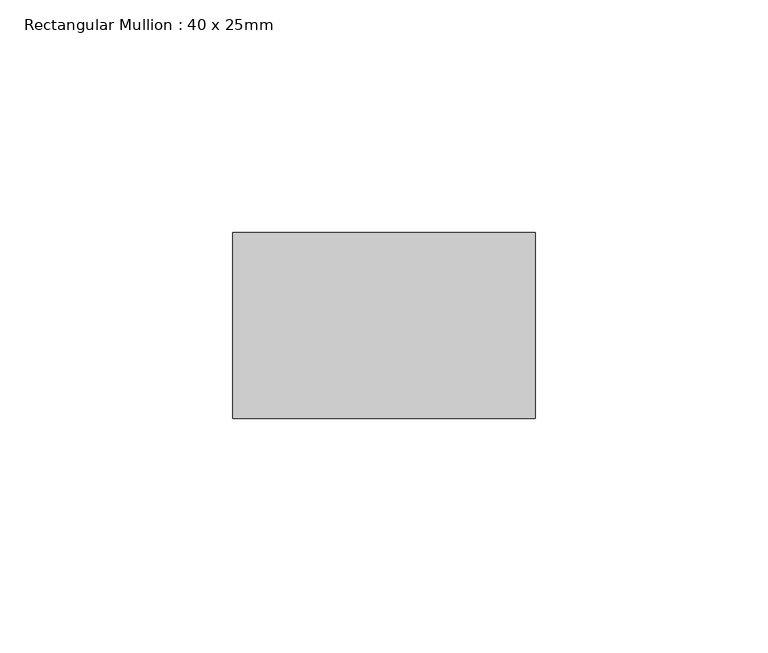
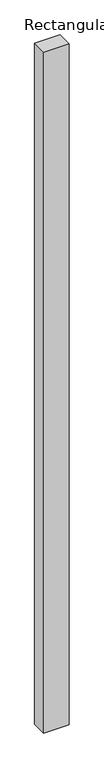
"""IFC4 building model written with IfcOpenShell, lengths in millimetres: member geometry, Rectangular Mullion : 40 x 25mm."""

from ifc_helpers import new_model, si_unit, frame, origin, place, context, project, spatial, polyline, outline, extrude, source, transform, mapped, element, save


def rectangular_mullion_40_x_25mm_8e8d680b(model_context):
    return source(origin(), model_context, "Body", "SweptSolid", [
        extrude(outline(polyline([(0.0, -20.0), (0.0, -60.0), (-65.0, -60.0), (-65.0, -20.0), (0.0, -20.0)])), frame((0.0, 0.0, -1848.8148236), z_axis=(0.0, 0.0, 1.0), x_axis=(1.0, 0.0, 0.0)), (0.0, 0.0, 1.0), 1848.8148236),
    ])


if __name__ == "__main__":
    model = new_model("IFC4")
    model_context = context("Model", 3, world=origin())
    ifc_project = project(units=[si_unit("LENGTHUNIT", "METRE", prefix="MILLI")], contexts=[model_context])
    site = spatial("IfcSite", under=ifc_project)
    building = spatial("IfcBuilding", under=site)
    placement = place(None, origin())
    rectangular_mullion_40_x_25mm_shape = rectangular_mullion_40_x_25mm_8e8d680b(model_context)
    element("IfcMember", 1, ObjectType="Rectangular Mullion : 40 x 25mm", at=placement, inside=building, context=model_context, shape_type="MappedRepresentation", body=[
        mapped(rectangular_mullion_40_x_25mm_shape, transform((0.0, 0.0, 0.0), x_axis=(1.0, 0.0, 0.0), y_axis=(0.0, 1.0, 0.0), z_axis=(0.0, 0.0, 1.0))),
    ])
    save(model, "model.ifc")
